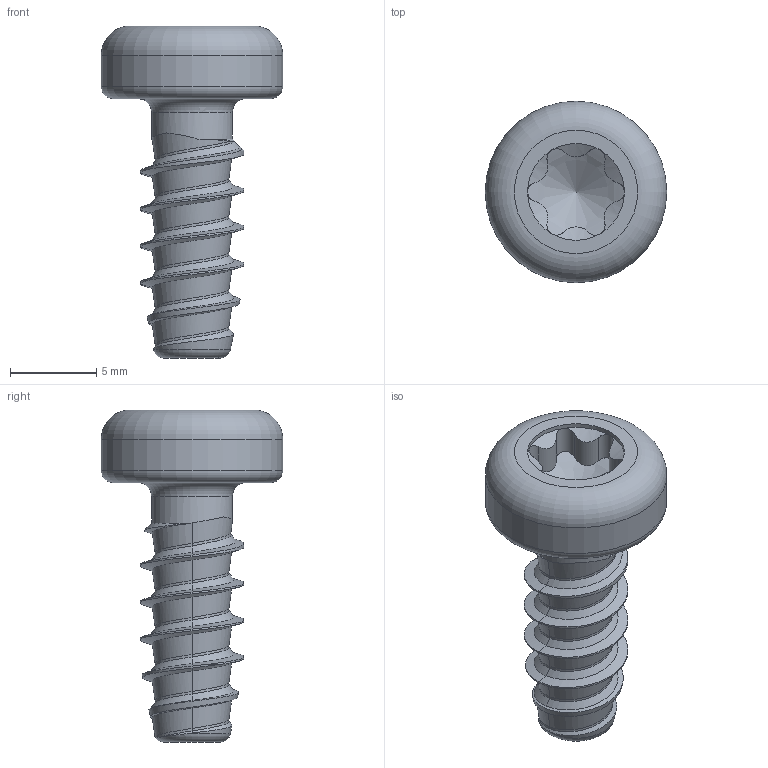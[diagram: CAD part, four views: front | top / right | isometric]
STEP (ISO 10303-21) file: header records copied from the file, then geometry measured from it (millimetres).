
FILE_DESCRIPTION(/* description */ (''),/* implementation_level */ '2;1');
FILE_NAME(/* name */ 'KN6039-STSplus-60x15-T30.step',/* time_stamp */ '2017-10-11T10:25:25+02:00',/* author */ (''),/* organization */ (''),/* preprocessor_version */ 'ST-DEVELOPER v16',/* originating_system */ 'SIEMENS PLM Software NX 10.0',/* authorisation */ '');
FILE_SCHEMA (('AUTOMOTIVE_DESIGN { 1 0 10303 214 3 1 1 1 }'));
Length unit declared in the file: millimetre
Products named in the file (1): KN6039-STSplus-60x15-T30
Bounding box: 10.5 x 10.5 x 19.2 mm (x, y, z)
Volume: 551.3 mm3; surface area: 605.3 mm2
Topology: 1 solids, 1 shells, 66 faces, 156 edges, 93 vertices
Faces by surface type: bspline 34, cylinder 16, cone 9, torus 4, plane 3
Full cylindrical faces by diameter (mm): 4.68 x1, 5.6 x1, 10.5 x1
Entity records: 3969 total; most frequent: CARTESIAN_POINT 2756, ORIENTED_EDGE 288, EDGE_CURVE 144, DIRECTION 143, VERTEX_POINT 90, B_SPLINE_CURVE_WITH_KNOTS 85, EDGE_LOOP 75, ADVANCED_FACE 66
